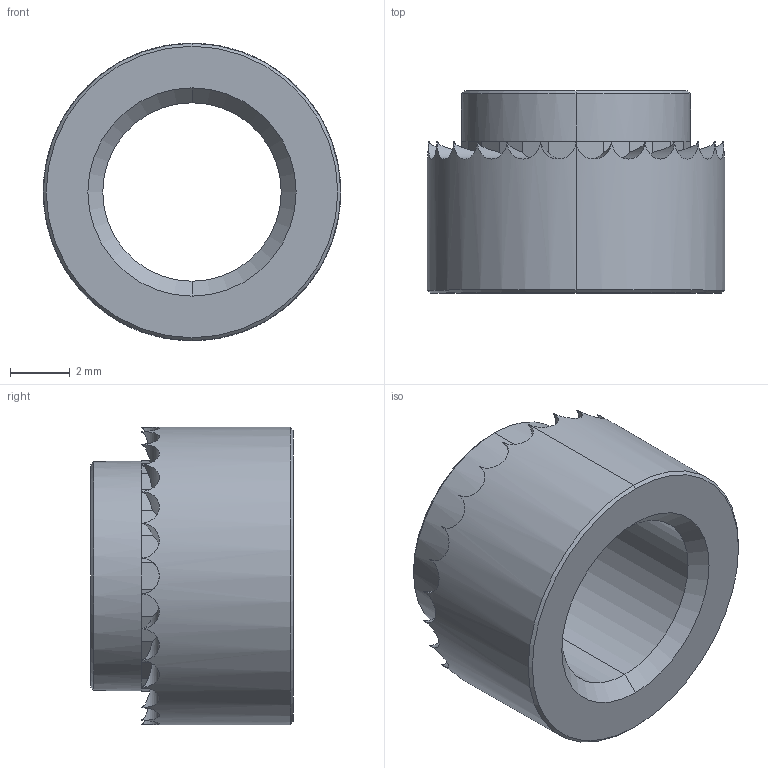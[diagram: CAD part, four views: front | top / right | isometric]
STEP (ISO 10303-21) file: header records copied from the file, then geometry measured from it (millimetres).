
FILE_DESCRIPTION (( 'STEP AP203' ), '1' );
FILE_NAME ('P0829.060-18G-ZP.step', '2019-03-21T22:18:47', ( '' ), ( '' ), 'SwSTEP 2.0', 'SolidWorks 2017', '' );
FILE_SCHEMA (( 'CONFIG_CONTROL_DESIGN' ));
Length unit declared in the file: millimetre
Products named in the file (1): P0829.060-18G-ZP
Bounding box: 10 x 6.8 x 10 mm (x, y, z)
Volume: 266.2 mm3; surface area: 423.1 mm2
Topology: 1 solids, 1 shells, 120 faces, 294 edges, 176 vertices
Faces by surface type: plane 80, cylinder 32, cone 8
Entity records: 3739 total; most frequent: CARTESIAN_POINT 903, ORIENTED_EDGE 588, DIRECTION 582, EDGE_CURVE 294, AXIS2_PLACEMENT_3D 219, VERTEX_POINT 176, LINE 144, VECTOR 144
